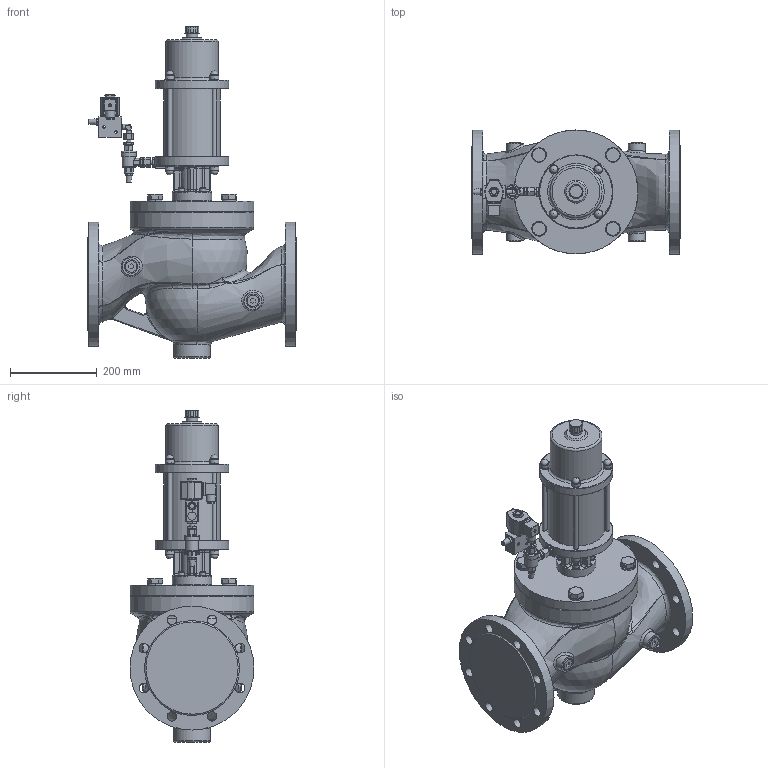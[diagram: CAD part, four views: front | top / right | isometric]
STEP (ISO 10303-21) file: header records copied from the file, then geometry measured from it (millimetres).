
FILE_DESCRIPTION((''),'2;1');
FILE_NAME('G:\CAD-Download\EPVA\1-4-EPVA\DN 150\1-4-EPVA 150H-4.00.32.stp','2010-05-17T13:05:48',('hb'),(''),'Autodesk Inventor 2008','Autodesk Inventor 2008','');
FILE_SCHEMA(('AUTOMOTIVE_DESIGN { 1 0 10303 214 1 1 1 1 }'));
Length unit declared in the file: millimetre
Products named in the file (1): Bauteil20
Bounding box: 480 x 285 x 763.55 mm (x, y, z)
Volume: 27636303.4 mm3; surface area: 1072309.6 mm2
Topology: 1 solids, 3 shells, 1156 faces, 2867 edges, 1767 vertices
Faces by surface type: plane 504, cylinder 264, bspline 235, cone 99, sphere 27, torus 27
Full cylindrical faces by diameter (mm): 5.5 x1, 6.4 x1, 6.9 x1, 8 x8, 10 x14, 11.405 x1, 11.445 x1, 13 x4, 14 x1, 14.376 x1, 16 x1, 19 x3, 19.3 x8, 20 x8, 20.15 x2, 20.8 x8, 21.5 x1, 22 x8, 26 x4, 26.6 x1, 28.19 x4, 30 x1, 31 x2, 32.2 x1, 34 x1, 40 x2, 50 x1, 85 x1, 90 x1, 120 x1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
Entity records: 60847 total; most frequent: CARTESIAN_POINT 35054, ORIENTED_EDGE 5072, DIRECTION 4831, EDGE_CURVE 2536, AXIS2_PLACEMENT_3D 1930, VERTEX_POINT 1662, EDGE_LOOP 1515, FACE_OUTER_BOUND 1155
